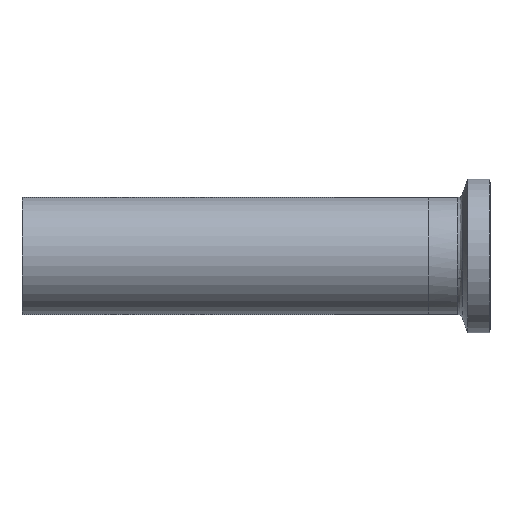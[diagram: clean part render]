
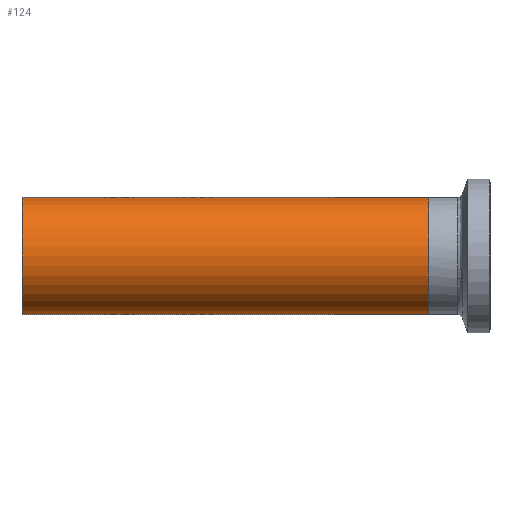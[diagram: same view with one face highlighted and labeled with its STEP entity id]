
A CAD part, front view. The second image highlights one B-rep face of the part: STEP entity #124.
In plain terms, the highlighted cylindrical face has radius 9.525 mm (diameter 19.05 mm), a partial arc.
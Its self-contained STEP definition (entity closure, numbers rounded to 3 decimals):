
#16 = AXIS2_PLACEMENT_3D ( 'NONE', #564, #1696, #725 ) ;
#29 = CARTESIAN_POINT ( 'NONE',  ( 0., 0., 9.525 ) ) ;
#69 = EDGE_CURVE ( 'NONE', #1360, #1295, #73, .T. ) ;
#73 = LINE ( 'NONE', #420, #1072 ) ;
#82 = CARTESIAN_POINT ( 'NONE',  ( -50.8, 0., -9.525 ) ) ;
#124 = ADVANCED_FACE ( 'NONE', ( #810 ), #404, .T. ) ;
#201 = CARTESIAN_POINT ( 'NONE',  ( 0., 0., -9.525 ) ) ;
#223 = CIRCLE ( 'NONE', #1720, 9.525 ) ;
#315 = EDGE_CURVE ( 'NONE', #1295, #1740, #329, .T. ) ;
#318 = VECTOR ( 'NONE', #552, 1000. ) ;
#329 = LINE ( 'NONE', #1855, #743 ) ;
#340 = CARTESIAN_POINT ( 'NONE',  ( -50.8, 0., 9.525 ) ) ;
#344 = VECTOR ( 'NONE', #620, 1000. ) ;
#348 = DIRECTION ( 'NONE',  ( 0., 0., 1. ) ) ;
#379 = ORIENTED_EDGE ( 'NONE', *, *, #69, .F. ) ;
#404 = CYLINDRICAL_SURFACE ( 'NONE', #627, 9.525 ) ;
#409 = CARTESIAN_POINT ( 'NONE',  ( 42.341, 0., 9.525 ) ) ;
#420 = CARTESIAN_POINT ( 'NONE',  ( 42.341, 0., -9.525 ) ) ;
#484 = CARTESIAN_POINT ( 'NONE',  ( 15.4, 0., 0. ) ) ;
#523 = LINE ( 'NONE', #409, #318 ) ;
#547 = DIRECTION ( 'NONE',  ( -1., 0., 0. ) ) ;
#552 = DIRECTION ( 'NONE',  ( -1., 0., 0. ) ) ;
#564 = CARTESIAN_POINT ( 'NONE',  ( -50.8, 0., 0. ) ) ;
#614 = EDGE_CURVE ( 'NONE', #1360, #1248, #223, .T. ) ;
#620 = DIRECTION ( 'NONE',  ( -1., 0., 0. ) ) ;
#624 = CARTESIAN_POINT ( 'NONE',  ( 15.4, 0., 9.525 ) ) ;
#627 = AXIS2_PLACEMENT_3D ( 'NONE', #1976, #1148, #1179 ) ;
#725 = DIRECTION ( 'NONE',  ( 0., 0., 1. ) ) ;
#743 = VECTOR ( 'NONE', #927, 1000. ) ;
#791 = ORIENTED_EDGE ( 'NONE', *, *, #1282, .T. ) ;
#810 = FACE_OUTER_BOUND ( 'NONE', #1332, .T. ) ;
#927 = DIRECTION ( 'NONE',  ( -1., 0., 0. ) ) ;
#1026 = VERTEX_POINT ( 'NONE', #29 ) ;
#1072 = VECTOR ( 'NONE', #2046, 1000. ) ;
#1148 = DIRECTION ( 'NONE',  ( -1., 0., 0. ) ) ;
#1179 = DIRECTION ( 'NONE',  ( 0., 0., 1. ) ) ;
#1248 = VERTEX_POINT ( 'NONE', #624 ) ;
#1282 = EDGE_CURVE ( 'NONE', #1026, #1603, #1496, .T. ) ;
#1295 = VERTEX_POINT ( 'NONE', #201 ) ;
#1332 = EDGE_LOOP ( 'NONE', ( #379, #2009, #1733, #791, #1889, #1832 ) ) ;
#1360 = VERTEX_POINT ( 'NONE', #1791 ) ;
#1496 = LINE ( 'NONE', #1613, #344 ) ;
#1603 = VERTEX_POINT ( 'NONE', #340 ) ;
#1613 = CARTESIAN_POINT ( 'NONE',  ( 42.341, 0., 9.525 ) ) ;
#1696 = DIRECTION ( 'NONE',  ( 1., 0., 0. ) ) ;
#1720 = AXIS2_PLACEMENT_3D ( 'NONE', #484, #547, #348 ) ;
#1733 = ORIENTED_EDGE ( 'NONE', *, *, #1753, .T. ) ;
#1740 = VERTEX_POINT ( 'NONE', #82 ) ;
#1753 = EDGE_CURVE ( 'NONE', #1248, #1026, #523, .T. ) ;
#1764 = EDGE_CURVE ( 'NONE', #1603, #1740, #1933, .T. ) ;
#1791 = CARTESIAN_POINT ( 'NONE',  ( 15.4, 0., -9.525 ) ) ;
#1832 = ORIENTED_EDGE ( 'NONE', *, *, #315, .F. ) ;
#1855 = CARTESIAN_POINT ( 'NONE',  ( 42.341, 0., -9.525 ) ) ;
#1889 = ORIENTED_EDGE ( 'NONE', *, *, #1764, .T. ) ;
#1933 = CIRCLE ( 'NONE', #16, 9.525 ) ;
#1976 = CARTESIAN_POINT ( 'NONE',  ( 42.341, 0., 0. ) ) ;
#2009 = ORIENTED_EDGE ( 'NONE', *, *, #614, .T. ) ;
#2046 = DIRECTION ( 'NONE',  ( -1., 0., 0. ) ) ;
